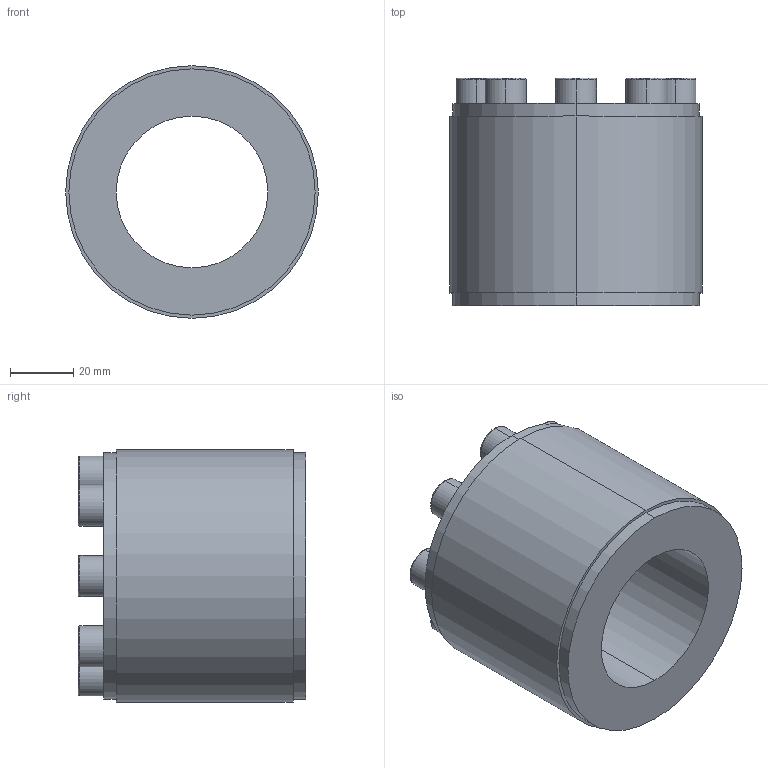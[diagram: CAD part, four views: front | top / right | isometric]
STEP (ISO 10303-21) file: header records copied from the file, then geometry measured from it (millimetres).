
FILE_DESCRIPTION (( 'STEP AP203' ), '1' );
FILE_NAME ('PL-D1 48-80.STEP', '2021-10-23T00:12:04', ( '' ), ( '' ), 'SwSTEP 2.0', 'SolidWorks 2018', '' );
FILE_SCHEMA (( 'CONFIG_CONTROL_DESIGN' ));
Length unit declared in the file: millimetre
Products named in the file (1): PL-D1 48-80
Bounding box: 80 x 72 x 80 mm (x, y, z)
Volume: 211381.9 mm3; surface area: 35327.6 mm2
Topology: 1 solids, 1 shells, 108 faces, 248 edges, 160 vertices
Faces by surface type: plane 68, cylinder 24, torus 16
Entity records: 3125 total; most frequent: DIRECTION 546, CARTESIAN_POINT 517, ORIENTED_EDGE 496, EDGE_CURVE 248, AXIS2_PLACEMENT_3D 189, VECTOR 168, LINE 168, VERTEX_POINT 160
